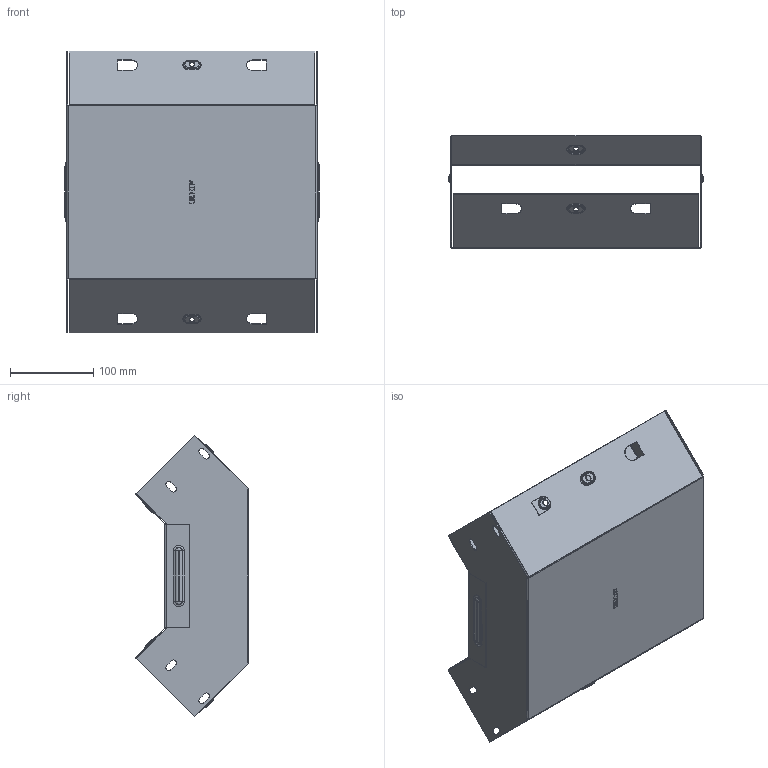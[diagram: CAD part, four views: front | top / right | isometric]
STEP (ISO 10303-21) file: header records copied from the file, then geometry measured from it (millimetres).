
FILE_DESCRIPTION (( 'STEP AP214' ), '1' );
FILE_NAME ('vi90100300_捘.STEP', '2019-06-10T09:20:45', ( '砐錪賧瘔蠈錪 Windows' ), ( '' ), 'SwSTEP 2.0', 'SolidWorks 2018', '' );
FILE_SCHEMA (( 'AUTOMOTIVE_DESIGN' ));
Length unit declared in the file: millimetre
Products named in the file (1): vi90100300_捘
Bounding box: 305.6 x 136.16 x 338.25 mm (x, y, z)
Volume: 199764.3 mm3; surface area: 502647.4 mm2
Topology: 2 solids, 2 shells, 452 faces, 1164 edges, 744 vertices
Faces by surface type: plane 242, cylinder 128, torus 64, bspline 18
Entity records: 14672 total; most frequent: CARTESIAN_POINT 3380, DIRECTION 2350, ORIENTED_EDGE 2328, EDGE_CURVE 1164, AXIS2_PLACEMENT_3D 787, VECTOR 776, LINE 776, VERTEX_POINT 744
